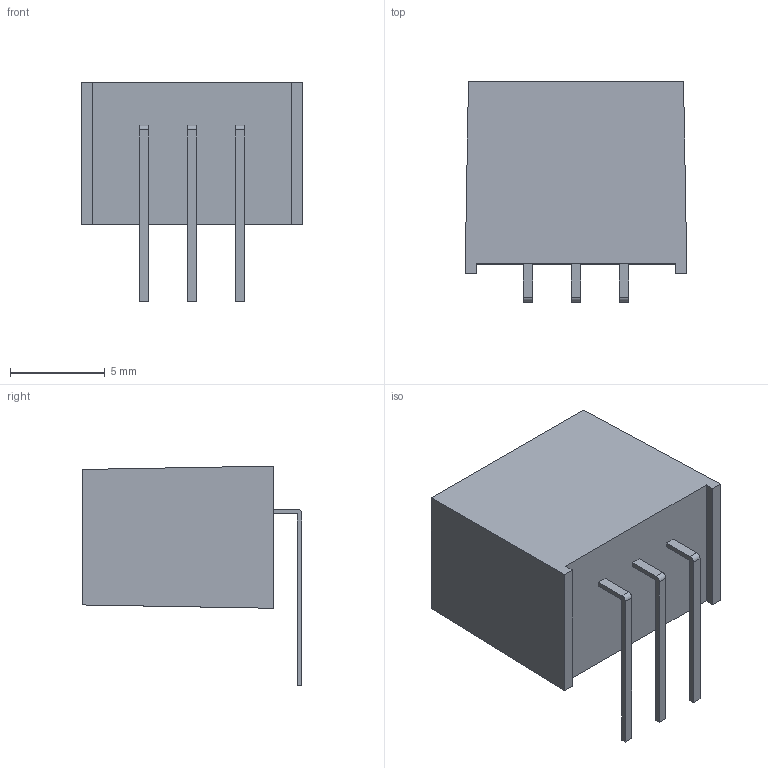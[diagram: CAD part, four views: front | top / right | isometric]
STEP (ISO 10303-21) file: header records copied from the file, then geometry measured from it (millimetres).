
FILE_DESCRIPTION (( 'STEP AP214' ), '1' );
FILE_NAME ('TSRN 1-A.STEP', '2018-10-30T09:41:11', ( 'user' ), ( '' ), 'SwSTEP 2.0', 'SolidWorks 2016', '' );
FILE_SCHEMA (( 'AUTOMOTIVE_DESIGN' ));
Length unit declared in the file: millimetre
Products named in the file (1): TSRN 1-A
Bounding box: 11.7 x 11.6 x 11.6 mm (x, y, z)
Volume: 817.3 mm3; surface area: 596 mm2
Topology: 1 solids, 1 shells, 34 faces, 87 edges, 58 vertices
Faces by surface type: plane 31, cylinder 3
Entity records: 1315 total; most frequent: CARTESIAN_POINT 180, ORIENTED_EDGE 174, DIRECTION 163, EDGE_CURVE 87, LINE 81, VECTOR 81, VERTEX_POINT 58, AXIS2_PLACEMENT_3D 41
